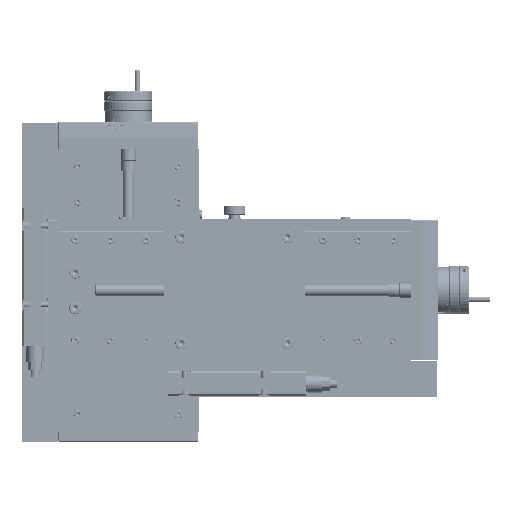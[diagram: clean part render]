
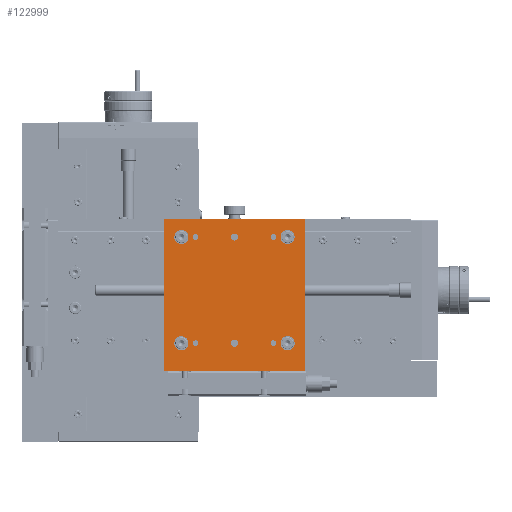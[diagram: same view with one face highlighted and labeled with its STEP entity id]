
A CAD part, top view. The second image highlights one B-rep face of the part: STEP entity #122999.
In plain terms, the highlighted planar face has unit normal (0, 0, 1) as drawn and (0, 0, -1) by its records, which use the part's own axes.
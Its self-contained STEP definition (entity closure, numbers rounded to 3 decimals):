
#10254=FACE_BOUND('',#27709,.T.);
#10255=FACE_BOUND('',#27710,.T.);
#10256=FACE_BOUND('',#27711,.T.);
#10257=FACE_BOUND('',#27712,.T.);
#10258=FACE_BOUND('',#27713,.T.);
#10259=FACE_BOUND('',#27714,.T.);
#10260=FACE_BOUND('',#27715,.T.);
#10261=FACE_BOUND('',#27716,.T.);
#10262=FACE_BOUND('',#27717,.T.);
#10263=FACE_BOUND('',#27718,.T.);
#14158=PLANE('',#135118);
#20415=FACE_OUTER_BOUND('',#27708,.T.);
#27708=EDGE_LOOP('',(#114962,#114963,#114964,#114965));
#27709=EDGE_LOOP('',(#114966,#114967));
#27710=EDGE_LOOP('',(#114968,#114969));
#27711=EDGE_LOOP('',(#114970,#114971));
#27712=EDGE_LOOP('',(#114972,#114973));
#27713=EDGE_LOOP('',(#114974,#114975));
#27714=EDGE_LOOP('',(#114976,#114977));
#27715=EDGE_LOOP('',(#114978,#114979));
#27716=EDGE_LOOP('',(#114980,#114981));
#27717=EDGE_LOOP('',(#114982,#114983));
#27718=EDGE_LOOP('',(#114984,#114985));
#37676=LINE('',#281790,#47611);
#37680=LINE('',#281797,#47615);
#37683=LINE('',#281803,#47618);
#37685=LINE('',#281806,#47620);
#47611=VECTOR('',#167604,10.);
#47615=VECTOR('',#167610,10.);
#47618=VECTOR('',#167615,10.);
#47620=VECTOR('',#167619,10.);
#52775=CIRCLE('',#135042,2.5);
#52776=CIRCLE('',#135043,2.5);
#52778=CIRCLE('',#135046,2.5);
#52779=CIRCLE('',#135047,2.5);
#52781=CIRCLE('',#135050,2.067);
#52782=CIRCLE('',#135051,2.067);
#52784=CIRCLE('',#135054,2.067);
#52785=CIRCLE('',#135055,2.067);
#52787=CIRCLE('',#135058,2.067);
#52788=CIRCLE('',#135059,2.067);
#52790=CIRCLE('',#135062,2.067);
#52791=CIRCLE('',#135063,2.067);
#52796=CIRCLE('',#135070,5.);
#52797=CIRCLE('',#135071,5.);
#52802=CIRCLE('',#135079,5.);
#52803=CIRCLE('',#135080,5.);
#52808=CIRCLE('',#135088,5.);
#52809=CIRCLE('',#135089,5.);
#52814=CIRCLE('',#135097,5.);
#52815=CIRCLE('',#135098,5.);
#64409=VERTEX_POINT('',#281642);
#64410=VERTEX_POINT('',#281643);
#64412=VERTEX_POINT('',#281650);
#64413=VERTEX_POINT('',#281651);
#64415=VERTEX_POINT('',#281658);
#64416=VERTEX_POINT('',#281659);
#64418=VERTEX_POINT('',#281666);
#64419=VERTEX_POINT('',#281667);
#64421=VERTEX_POINT('',#281674);
#64422=VERTEX_POINT('',#281675);
#64424=VERTEX_POINT('',#281682);
#64425=VERTEX_POINT('',#281683);
#64430=VERTEX_POINT('',#281697);
#64431=VERTEX_POINT('',#281698);
#64436=VERTEX_POINT('',#281714);
#64437=VERTEX_POINT('',#281715);
#64442=VERTEX_POINT('',#281731);
#64443=VERTEX_POINT('',#281732);
#64448=VERTEX_POINT('',#281748);
#64449=VERTEX_POINT('',#281749);
#64463=VERTEX_POINT('',#281787);
#64464=VERTEX_POINT('',#281789);
#64466=VERTEX_POINT('',#281795);
#64468=VERTEX_POINT('',#281801);
#81268=EDGE_CURVE('',#64409,#64410,#52775,.T.);
#81269=EDGE_CURVE('',#64410,#64409,#52776,.T.);
#81272=EDGE_CURVE('',#64412,#64413,#52778,.T.);
#81273=EDGE_CURVE('',#64413,#64412,#52779,.T.);
#81276=EDGE_CURVE('',#64415,#64416,#52781,.T.);
#81277=EDGE_CURVE('',#64416,#64415,#52782,.T.);
#81280=EDGE_CURVE('',#64418,#64419,#52784,.T.);
#81281=EDGE_CURVE('',#64419,#64418,#52785,.T.);
#81284=EDGE_CURVE('',#64421,#64422,#52787,.T.);
#81285=EDGE_CURVE('',#64422,#64421,#52788,.T.);
#81288=EDGE_CURVE('',#64424,#64425,#52790,.T.);
#81289=EDGE_CURVE('',#64425,#64424,#52791,.T.);
#81295=EDGE_CURVE('',#64430,#64431,#52796,.T.);
#81296=EDGE_CURVE('',#64431,#64430,#52797,.T.);
#81303=EDGE_CURVE('',#64436,#64437,#52802,.T.);
#81304=EDGE_CURVE('',#64437,#64436,#52803,.T.);
#81311=EDGE_CURVE('',#64442,#64443,#52808,.T.);
#81312=EDGE_CURVE('',#64443,#64442,#52809,.T.);
#81319=EDGE_CURVE('',#64448,#64449,#52814,.T.);
#81320=EDGE_CURVE('',#64449,#64448,#52815,.T.);
#81338=EDGE_CURVE('',#64464,#64463,#37676,.T.);
#81342=EDGE_CURVE('',#64463,#64466,#37680,.T.);
#81345=EDGE_CURVE('',#64466,#64468,#37683,.T.);
#81347=EDGE_CURVE('',#64468,#64464,#37685,.T.);
#114962=ORIENTED_EDGE('',*,*,#81347,.T.);
#114963=ORIENTED_EDGE('',*,*,#81338,.T.);
#114964=ORIENTED_EDGE('',*,*,#81342,.T.);
#114965=ORIENTED_EDGE('',*,*,#81345,.T.);
#114966=ORIENTED_EDGE('',*,*,#81268,.T.);
#114967=ORIENTED_EDGE('',*,*,#81269,.T.);
#114968=ORIENTED_EDGE('',*,*,#81272,.T.);
#114969=ORIENTED_EDGE('',*,*,#81273,.T.);
#114970=ORIENTED_EDGE('',*,*,#81276,.T.);
#114971=ORIENTED_EDGE('',*,*,#81277,.T.);
#114972=ORIENTED_EDGE('',*,*,#81280,.T.);
#114973=ORIENTED_EDGE('',*,*,#81281,.T.);
#114974=ORIENTED_EDGE('',*,*,#81284,.T.);
#114975=ORIENTED_EDGE('',*,*,#81285,.T.);
#114976=ORIENTED_EDGE('',*,*,#81288,.T.);
#114977=ORIENTED_EDGE('',*,*,#81289,.T.);
#114978=ORIENTED_EDGE('',*,*,#81295,.T.);
#114979=ORIENTED_EDGE('',*,*,#81296,.T.);
#114980=ORIENTED_EDGE('',*,*,#81303,.T.);
#114981=ORIENTED_EDGE('',*,*,#81304,.T.);
#114982=ORIENTED_EDGE('',*,*,#81311,.T.);
#114983=ORIENTED_EDGE('',*,*,#81312,.T.);
#114984=ORIENTED_EDGE('',*,*,#81319,.T.);
#114985=ORIENTED_EDGE('',*,*,#81320,.T.);
#122999=ADVANCED_FACE('',(#20415,#10254,#10255,#10256,#10257,#10258,#10259,
#10260,#10261,#10262,#10263),#14158,.F.);
#135042=AXIS2_PLACEMENT_3D('',#281644,#167440,#167441);
#135043=AXIS2_PLACEMENT_3D('',#281645,#167442,#167443);
#135046=AXIS2_PLACEMENT_3D('',#281652,#167449,#167450);
#135047=AXIS2_PLACEMENT_3D('',#281653,#167451,#167452);
#135050=AXIS2_PLACEMENT_3D('',#281660,#167458,#167459);
#135051=AXIS2_PLACEMENT_3D('',#281661,#167460,#167461);
#135054=AXIS2_PLACEMENT_3D('',#281668,#167467,#167468);
#135055=AXIS2_PLACEMENT_3D('',#281669,#167469,#167470);
#135058=AXIS2_PLACEMENT_3D('',#281676,#167476,#167477);
#135059=AXIS2_PLACEMENT_3D('',#281677,#167478,#167479);
#135062=AXIS2_PLACEMENT_3D('',#281684,#167485,#167486);
#135063=AXIS2_PLACEMENT_3D('',#281685,#167487,#167488);
#135070=AXIS2_PLACEMENT_3D('',#281699,#167502,#167503);
#135071=AXIS2_PLACEMENT_3D('',#281700,#167504,#167505);
#135079=AXIS2_PLACEMENT_3D('',#281716,#167522,#167523);
#135080=AXIS2_PLACEMENT_3D('',#281717,#167524,#167525);
#135088=AXIS2_PLACEMENT_3D('',#281733,#167542,#167543);
#135089=AXIS2_PLACEMENT_3D('',#281734,#167544,#167545);
#135097=AXIS2_PLACEMENT_3D('',#281750,#167562,#167563);
#135098=AXIS2_PLACEMENT_3D('',#281751,#167564,#167565);
#135118=AXIS2_PLACEMENT_3D('',#281808,#167622,#167623);
#167440=DIRECTION('center_axis',(0.,0.,1.));
#167441=DIRECTION('ref_axis',(-1.,0.,0.));
#167442=DIRECTION('center_axis',(0.,0.,1.));
#167443=DIRECTION('ref_axis',(-1.,0.,0.));
#167449=DIRECTION('center_axis',(0.,0.,1.));
#167450=DIRECTION('ref_axis',(-1.,0.,0.));
#167451=DIRECTION('center_axis',(0.,0.,1.));
#167452=DIRECTION('ref_axis',(-1.,0.,0.));
#167458=DIRECTION('center_axis',(0.,0.,1.));
#167459=DIRECTION('ref_axis',(-1.,0.,0.));
#167460=DIRECTION('center_axis',(0.,0.,1.));
#167461=DIRECTION('ref_axis',(-1.,0.,0.));
#167467=DIRECTION('center_axis',(0.,0.,1.));
#167468=DIRECTION('ref_axis',(-1.,0.,0.));
#167469=DIRECTION('center_axis',(0.,0.,1.));
#167470=DIRECTION('ref_axis',(-1.,0.,0.));
#167476=DIRECTION('center_axis',(0.,0.,1.));
#167477=DIRECTION('ref_axis',(-1.,0.,0.));
#167478=DIRECTION('center_axis',(0.,0.,1.));
#167479=DIRECTION('ref_axis',(-1.,0.,0.));
#167485=DIRECTION('center_axis',(0.,0.,1.));
#167486=DIRECTION('ref_axis',(-1.,0.,0.));
#167487=DIRECTION('center_axis',(0.,0.,1.));
#167488=DIRECTION('ref_axis',(-1.,0.,0.));
#167502=DIRECTION('center_axis',(0.,0.,1.));
#167503=DIRECTION('ref_axis',(-1.,0.,0.));
#167504=DIRECTION('center_axis',(0.,0.,1.));
#167505=DIRECTION('ref_axis',(-1.,0.,0.));
#167522=DIRECTION('center_axis',(0.,0.,1.));
#167523=DIRECTION('ref_axis',(-1.,0.,0.));
#167524=DIRECTION('center_axis',(0.,0.,1.));
#167525=DIRECTION('ref_axis',(-1.,0.,0.));
#167542=DIRECTION('center_axis',(0.,0.,1.));
#167543=DIRECTION('ref_axis',(-1.,0.,0.));
#167544=DIRECTION('center_axis',(0.,0.,1.));
#167545=DIRECTION('ref_axis',(-1.,0.,0.));
#167562=DIRECTION('center_axis',(0.,0.,1.));
#167563=DIRECTION('ref_axis',(-1.,0.,0.));
#167564=DIRECTION('center_axis',(0.,0.,1.));
#167565=DIRECTION('ref_axis',(-1.,0.,0.));
#167604=DIRECTION('',(0.,1.,0.));
#167610=DIRECTION('',(1.,0.,0.));
#167615=DIRECTION('',(0.,-1.,0.));
#167619=DIRECTION('',(-1.,0.,0.));
#167622=DIRECTION('center_axis',(0.,0.,1.));
#167623=DIRECTION('ref_axis',(1.,0.,0.));
#281642=CARTESIAN_POINT('',(-52.5,12.5,0.));
#281643=CARTESIAN_POINT('',(-47.5,12.5,0.));
#281644=CARTESIAN_POINT('Origin',(-50.,12.5,0.));
#281645=CARTESIAN_POINT('Origin',(-50.,12.5,0.));
#281650=CARTESIAN_POINT('',(-52.5,87.5,0.));
#281651=CARTESIAN_POINT('',(-47.5,87.5,0.));
#281652=CARTESIAN_POINT('Origin',(-50.,87.5,0.));
#281653=CARTESIAN_POINT('Origin',(-50.,87.5,0.));
#281658=CARTESIAN_POINT('',(-24.567,12.5,0.));
#281659=CARTESIAN_POINT('',(-20.433,12.5,0.));
#281660=CARTESIAN_POINT('Origin',(-22.5,12.5,0.));
#281661=CARTESIAN_POINT('Origin',(-22.5,12.5,0.));
#281666=CARTESIAN_POINT('',(-79.567,12.5,0.));
#281667=CARTESIAN_POINT('',(-75.433,12.5,0.));
#281668=CARTESIAN_POINT('Origin',(-77.5,12.5,0.));
#281669=CARTESIAN_POINT('Origin',(-77.5,12.5,0.));
#281674=CARTESIAN_POINT('',(-79.567,87.5,0.));
#281675=CARTESIAN_POINT('',(-75.433,87.5,0.));
#281676=CARTESIAN_POINT('Origin',(-77.5,87.5,0.));
#281677=CARTESIAN_POINT('Origin',(-77.5,87.5,0.));
#281682=CARTESIAN_POINT('',(-24.567,87.5,0.));
#281683=CARTESIAN_POINT('',(-20.433,87.5,0.));
#281684=CARTESIAN_POINT('Origin',(-22.5,87.5,0.));
#281685=CARTESIAN_POINT('Origin',(-22.5,87.5,0.));
#281697=CARTESIAN_POINT('',(-17.5,87.5,0.));
#281698=CARTESIAN_POINT('',(-7.5,87.5,0.));
#281699=CARTESIAN_POINT('Origin',(-12.5,87.5,0.));
#281700=CARTESIAN_POINT('Origin',(-12.5,87.5,0.));
#281714=CARTESIAN_POINT('',(-17.5,12.5,0.));
#281715=CARTESIAN_POINT('',(-7.5,12.5,0.));
#281716=CARTESIAN_POINT('Origin',(-12.5,12.5,0.));
#281717=CARTESIAN_POINT('Origin',(-12.5,12.5,0.));
#281731=CARTESIAN_POINT('',(-92.5,12.5,0.));
#281732=CARTESIAN_POINT('',(-82.5,12.5,0.));
#281733=CARTESIAN_POINT('Origin',(-87.5,12.5,0.));
#281734=CARTESIAN_POINT('Origin',(-87.5,12.5,0.));
#281748=CARTESIAN_POINT('',(-92.5,87.5,0.));
#281749=CARTESIAN_POINT('',(-82.5,87.5,0.));
#281750=CARTESIAN_POINT('Origin',(-87.5,87.5,0.));
#281751=CARTESIAN_POINT('Origin',(-87.5,87.5,0.));
#281787=CARTESIAN_POINT('',(-100.,107.,0.));
#281789=CARTESIAN_POINT('',(-100.,0.,0.));
#281790=CARTESIAN_POINT('',(-100.,0.,0.));
#281795=CARTESIAN_POINT('',(0.,107.,0.));
#281797=CARTESIAN_POINT('',(-100.,107.,0.));
#281801=CARTESIAN_POINT('',(0.,0.,0.));
#281803=CARTESIAN_POINT('',(0.,107.,0.));
#281806=CARTESIAN_POINT('',(0.,0.,0.));
#281808=CARTESIAN_POINT('Origin',(-50.,53.5,0.));
